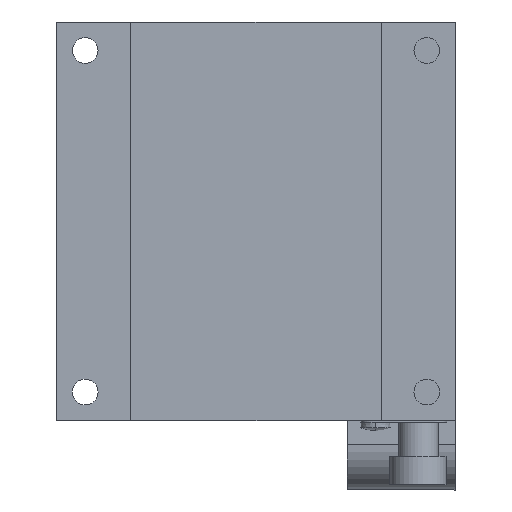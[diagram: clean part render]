
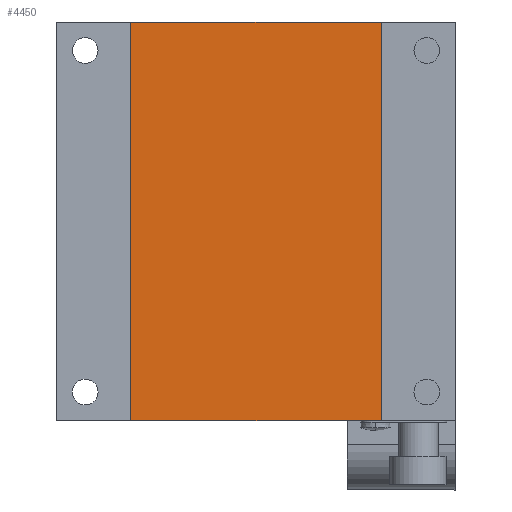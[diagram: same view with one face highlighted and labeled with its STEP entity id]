
A CAD part, front view. The second image highlights one B-rep face of the part: STEP entity #4450.
In plain terms, the highlighted planar face has unit normal (0, -1, 0).
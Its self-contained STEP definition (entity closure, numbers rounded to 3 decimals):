
#130 = DIRECTION ( 'NONE',  ( 0., 0., 1. ) ) ;
#131 = VECTOR ( 'NONE', #130, 1000. ) ;
#132 = CARTESIAN_POINT ( 'NONE',  ( 22., 0.5, -35. ) ) ;
#133 = LINE ( 'NONE', #132, #131 ) ;
#1067 = DIRECTION ( 'NONE',  ( -1., 0., 0. ) ) ;
#1068 = VECTOR ( 'NONE', #1067, 1000. ) ;
#1069 = CARTESIAN_POINT ( 'NONE',  ( 22., 0.5, -35. ) ) ;
#1070 = LINE ( 'NONE', #1069, #1068 ) ;
#1071 = CARTESIAN_POINT ( 'NONE',  ( 22., 0.5, -35. ) ) ;
#2776 = CARTESIAN_POINT ( 'NONE',  ( 22., 0.5, 35. ) ) ;
#2777 = DIRECTION ( 'NONE',  ( -1., 0., 0. ) ) ;
#2778 = VECTOR ( 'NONE', #2777, 1000. ) ;
#2779 = CARTESIAN_POINT ( 'NONE',  ( 22., 0.5, 35. ) ) ;
#2780 = LINE ( 'NONE', #2779, #2778 ) ;
#2781 = CARTESIAN_POINT ( 'NONE',  ( -22., 0.5, 35. ) ) ;
#3900 = VERTEX_POINT ( 'NONE', #2781 ) ;
#3902 = EDGE_CURVE ( 'NONE', #3903, #3900, #2780, .T. ) ;
#3903 = VERTEX_POINT ( 'NONE', #2776 ) ;
#4434 = EDGE_CURVE ( 'NONE', #7235, #3900, #9531, .T. ) ;
#4439 = ORIENTED_EDGE ( 'NONE', *, *, #4656, .T. ) ;
#4450 = ADVANCED_FACE ( 'NONE', ( #9548 ), #9565, .F. ) ;
#4463 = EDGE_LOOP ( 'NONE', ( #4493, #4469, #4505, #4439 ) ) ;
#4469 = ORIENTED_EDGE ( 'NONE', *, *, #4434, .F. ) ;
#4493 = ORIENTED_EDGE ( 'NONE', *, *, #3902, .T. ) ;
#4505 = ORIENTED_EDGE ( 'NONE', *, *, #7485, .F. ) ;
#4656 = EDGE_CURVE ( 'NONE', #7483, #3903, #133, .T. ) ;
#6233 = CARTESIAN_POINT ( 'NONE',  ( -22., 0.5, -35. ) ) ;
#7235 = VERTEX_POINT ( 'NONE', #6233 ) ;
#7483 = VERTEX_POINT ( 'NONE', #1071 ) ;
#7485 = EDGE_CURVE ( 'NONE', #7483, #7235, #1070, .T. ) ;
#9516 = DIRECTION ( 'NONE',  ( 0., 0., 1. ) ) ;
#9529 = VECTOR ( 'NONE', #9516, 1000. ) ;
#9530 = CARTESIAN_POINT ( 'NONE',  ( -22., 0.5, -35. ) ) ;
#9531 = LINE ( 'NONE', #9530, #9529 ) ;
#9547 = AXIS2_PLACEMENT_3D ( 'NONE', #9559, #9558, #9557 ) ;
#9548 = FACE_OUTER_BOUND ( 'NONE', #4463, .T. ) ;
#9557 = DIRECTION ( 'NONE',  ( 0., 0., -1. ) ) ;
#9558 = DIRECTION ( 'NONE',  ( 0., 1., 0. ) ) ;
#9559 = CARTESIAN_POINT ( 'NONE',  ( 22., 0.5, -35. ) ) ;
#9565 = PLANE ( 'NONE',  #9547 ) ;
